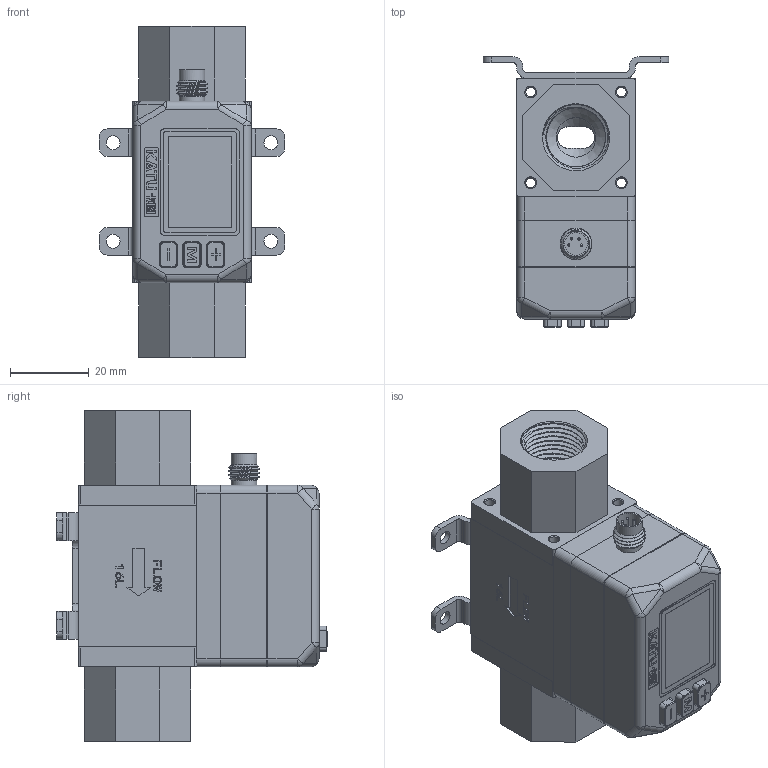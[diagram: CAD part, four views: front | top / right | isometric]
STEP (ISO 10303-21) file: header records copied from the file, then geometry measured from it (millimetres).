
FILE_DESCRIPTION( (''), '2;1');
FILE_NAME( 'QEKJ_16L_R3-8_M12_LED-display_bracket.step', '2023-12-14T18:11:30+08:00', (''), (''), '', '', '');
FILE_SCHEMA (('AUTOMOTIVE_DESIGN { 1 0 10303 214 3 1 1 1 }'));
Length unit declared in the file: millimetre
Products named in the file (1): QEKJ 16L_R3-8_M12_LED-display_bracket
Bounding box: 47 x 68.6 x 84 mm (x, y, z)
Volume: 60732.1 mm3; surface area: 48882.2 mm2
Topology: 9 solids, 30 shells, 1487 faces, 3917 edges, 2571 vertices
Faces by surface type: plane 840, cylinder 349, extrusion 189, cone 58, torus 25, sphere 20, bspline 6
Full cylindrical faces by diameter (mm): 0.6 x4, 1.2 x3, 1.5 x4, 1.7 x1, 1.8 x1, 2 x8, 2.05 x4, 2.2 x4, 2.3 x4, 2.5 x12, 3 x16, 3.5 x7, 4 x1, 4.5 x4, 5 x4, 5.5 x1, 5.8 x2, 6 x1, 6.5 x2, 7.5 x1, 8.5 x1, 10 x2, 12 x1, 14 x1, 15 x22, 19 x2, 20 x2
Entity records: 53693 total; most frequent: CARTESIAN_POINT 15449, ORIENTED_EDGE 7226, DIRECTION 6588, EDGE_CURVE 3613, VECTOR 2598, VERTEX_POINT 2453, LINE 2409, AXIS2_PLACEMENT_3D 1995
